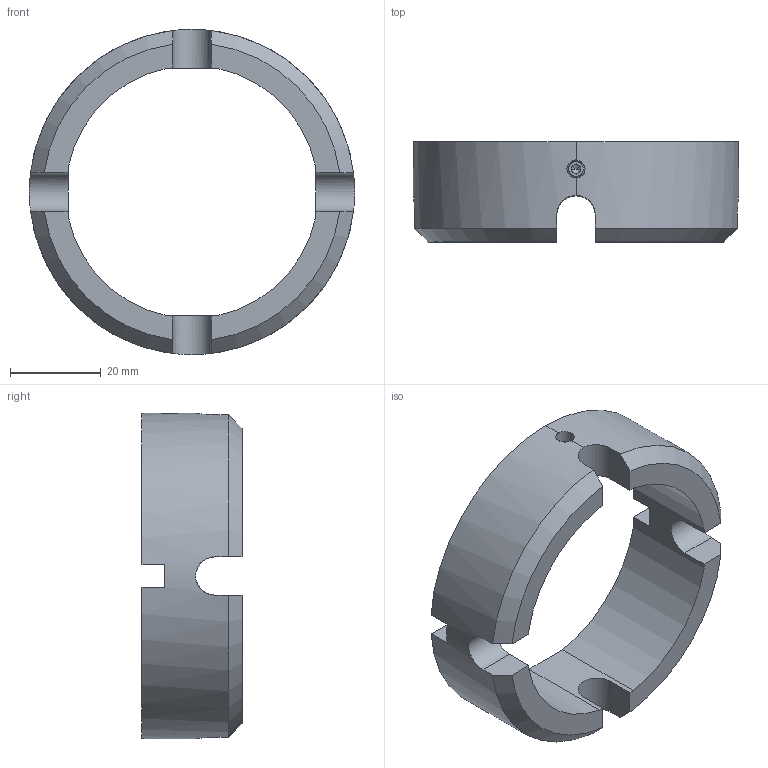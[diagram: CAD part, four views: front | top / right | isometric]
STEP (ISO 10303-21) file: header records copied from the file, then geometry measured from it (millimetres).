
FILE_DESCRIPTION (( 'STEP AP214' ), '1' );
FILE_NAME ('B135-SP.STEP', '2022-05-23T01:00:42', ( '' ), ( '' ), 'SwSTEP 2.0', 'SolidWorks 2019', '' );
FILE_SCHEMA (( 'AUTOMOTIVE_DESIGN' ));
Length unit declared in the file: millimetre
Products named in the file (3): Spacer; 止ねじM4x6; B135-SP
Assembly tree (2 placements, depth 2):
  B135-SP
    Spacer
    止ねじM4x6
Bounding box: 71.5 x 22 x 71.5 mm (x, y, z)
Volume: 31479.1 mm3; surface area: 11815.6 mm2
Topology: 2 solids, 2 shells, 79 faces, 224 edges, 145 vertices
Faces by surface type: plane 38, cylinder 27, cone 11, bspline 3
Entity records: 4199 total; most frequent: CARTESIAN_POINT 2003, ORIENTED_EDGE 444, DIRECTION 367, EDGE_CURVE 222, VERTEX_POINT 145, AXIS2_PLACEMENT_3D 123, LINE 121, VECTOR 121
